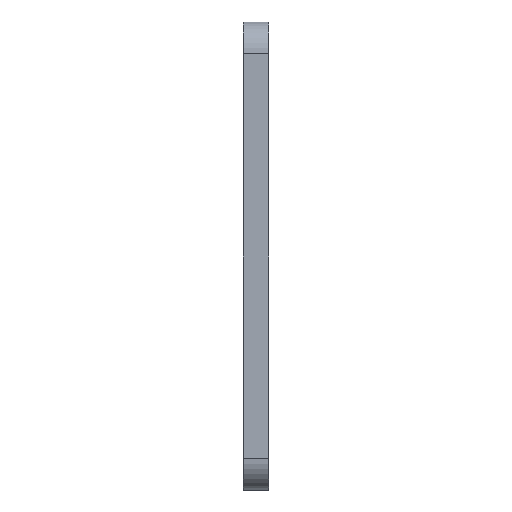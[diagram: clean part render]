
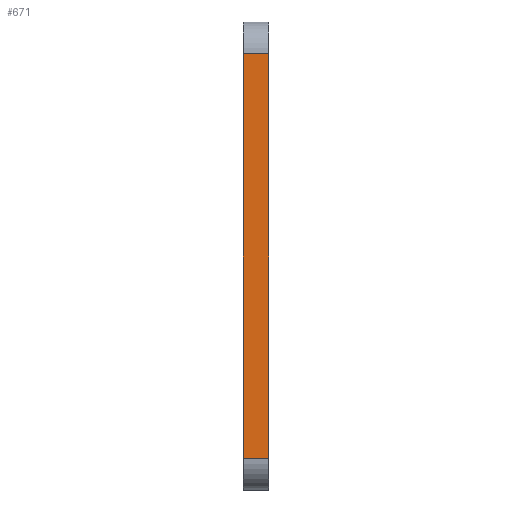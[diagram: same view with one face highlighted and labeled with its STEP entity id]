
A CAD part, left-side view. The second image highlights one B-rep face of the part: STEP entity #671.
In plain terms, the highlighted planar face has unit normal (-1, 0, 0).
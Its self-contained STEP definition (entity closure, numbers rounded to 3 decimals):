
#6 = ORIENTED_EDGE ( 'NONE', *, *, #234, .F. ) ;
#71 = VERTEX_POINT ( 'NONE', #523 ) ;
#102 = VERTEX_POINT ( 'NONE', #575 ) ;
#145 = LINE ( 'NONE', #197, #362 ) ;
#174 = DIRECTION ( 'NONE',  ( 0., 1., 0. ) ) ;
#182 = LINE ( 'NONE', #789, #574 ) ;
#197 = CARTESIAN_POINT ( 'NONE',  ( -18.5, 2., -8.5 ) ) ;
#211 = DIRECTION ( 'NONE',  ( -1., 0., 0. ) ) ;
#216 = PLANE ( 'NONE',  #636 ) ;
#234 = EDGE_CURVE ( 'NONE', #411, #102, #145, .T. ) ;
#261 = VERTEX_POINT ( 'NONE', #466 ) ;
#362 = VECTOR ( 'NONE', #401, 1000. ) ;
#369 = CARTESIAN_POINT ( 'NONE',  ( -18.5, 2., -6. ) ) ;
#401 = DIRECTION ( 'NONE',  ( 0., 0., 1. ) ) ;
#411 = VERTEX_POINT ( 'NONE', #369 ) ;
#421 = ORIENTED_EDGE ( 'NONE', *, *, #856, .T. ) ;
#443 = DIRECTION ( 'NONE',  ( 0., 0., 1. ) ) ;
#466 = CARTESIAN_POINT ( 'NONE',  ( -18.5, 0., 26. ) ) ;
#495 = LINE ( 'NONE', #757, #663 ) ;
#523 = CARTESIAN_POINT ( 'NONE',  ( -18.5, 0., -6. ) ) ;
#551 = LINE ( 'NONE', #587, #745 ) ;
#574 = VECTOR ( 'NONE', #443, 1000. ) ;
#575 = CARTESIAN_POINT ( 'NONE',  ( -18.5, 2., 26. ) ) ;
#587 = CARTESIAN_POINT ( 'NONE',  ( -18.5, 0., 26. ) ) ;
#631 = EDGE_CURVE ( 'NONE', #411, #71, #495, .T. ) ;
#632 = DIRECTION ( 'NONE',  ( 0., -1., 0. ) ) ;
#636 = AXIS2_PLACEMENT_3D ( 'NONE', #838, #211, #702 ) ;
#663 = VECTOR ( 'NONE', #632, 1000. ) ;
#671 = ADVANCED_FACE ( 'NONE', ( #796 ), #216, .T. ) ;
#679 = ORIENTED_EDGE ( 'NONE', *, *, #756, .T. ) ;
#702 = DIRECTION ( 'NONE',  ( 0., 0., 1. ) ) ;
#735 = ORIENTED_EDGE ( 'NONE', *, *, #631, .T. ) ;
#745 = VECTOR ( 'NONE', #174, 1000. ) ;
#756 = EDGE_CURVE ( 'NONE', #71, #261, #182, .T. ) ;
#757 = CARTESIAN_POINT ( 'NONE',  ( -18.5, 0., -6. ) ) ;
#775 = EDGE_LOOP ( 'NONE', ( #679, #421, #6, #735 ) ) ;
#789 = CARTESIAN_POINT ( 'NONE',  ( -18.5, 0., -8.5 ) ) ;
#796 = FACE_OUTER_BOUND ( 'NONE', #775, .T. ) ;
#838 = CARTESIAN_POINT ( 'NONE',  ( -18.5, 0., -8.5 ) ) ;
#856 = EDGE_CURVE ( 'NONE', #261, #102, #551, .T. ) ;
